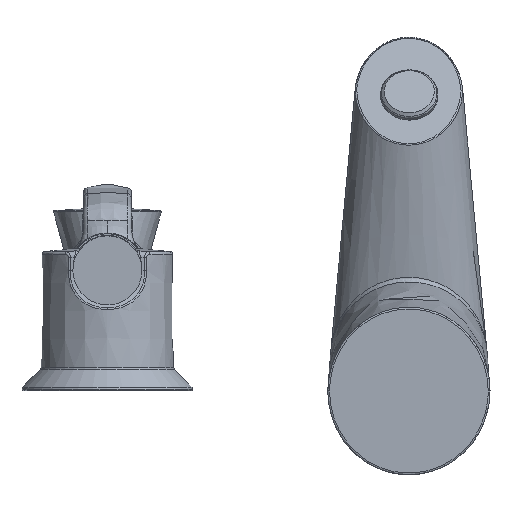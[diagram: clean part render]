
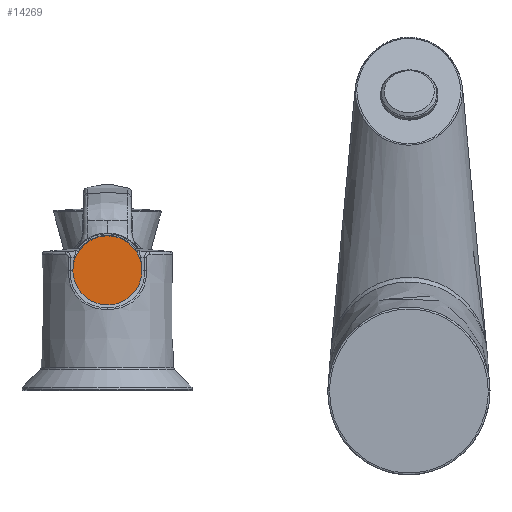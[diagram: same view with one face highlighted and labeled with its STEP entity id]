
A CAD part, front view. The second image highlights one B-rep face of the part: STEP entity #14269.
In plain terms, the highlighted planar face has unit normal (0, -1, 0).
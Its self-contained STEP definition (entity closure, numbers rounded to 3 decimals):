
#31 = CARTESIAN_POINT ( 'NONE',  ( -100., -66.833, 39.9 ) ) ;
#308 = DIRECTION ( 'NONE',  ( 0.924, 0., 0.381 ) ) ;
#2393 = DIRECTION ( 'NONE',  ( -0.924, 0., -0.381 ) ) ;
#4121 = AXIS2_PLACEMENT_3D ( 'NONE', #12070, #14444, #308 ) ;
#7715 = VERTEX_POINT ( 'NONE', #18420 ) ;
#8435 = EDGE_CURVE ( 'NONE', #7715, #7715, #20901, .T. ) ;
#11226 = AXIS2_PLACEMENT_3D ( 'NONE', #31, #16532, #2393 ) ;
#12070 = CARTESIAN_POINT ( 'NONE',  ( -110.446, -66.833, 35.591 ) ) ;
#13936 = FACE_OUTER_BOUND ( 'NONE', #27801, .T. ) ;
#14269 = ADVANCED_FACE ( 'NONE', ( #13936 ), #14345, .T. ) ;
#14345 = PLANE ( 'NONE',  #4121 ) ;
#14444 = DIRECTION ( 'NONE',  ( 0., -1., 0. ) ) ;
#16532 = DIRECTION ( 'NONE',  ( 0., 1., 0. ) ) ;
#18420 = CARTESIAN_POINT ( 'NONE',  ( -110.608, -66.833, 35.525 ) ) ;
#20901 = CIRCLE ( 'NONE', #11226, 11.475 ) ;
#21249 = ORIENTED_EDGE ( 'NONE', *, *, #8435, .F. ) ;
#27801 = EDGE_LOOP ( 'NONE', ( #21249 ) ) ;
